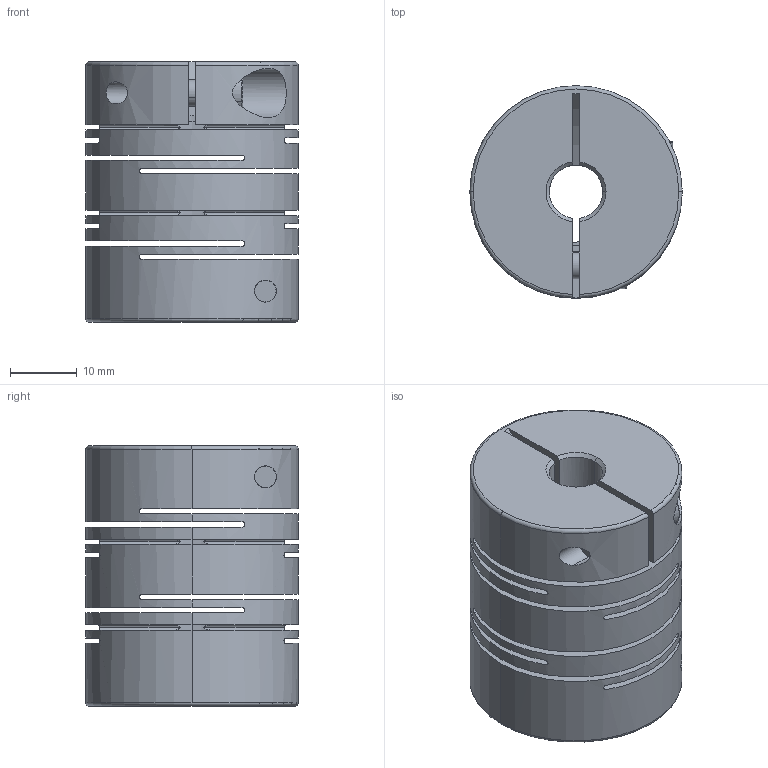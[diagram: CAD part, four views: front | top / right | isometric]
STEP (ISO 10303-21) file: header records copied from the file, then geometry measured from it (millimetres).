
FILE_DESCRIPTION (( 'STEP AP203' ), '1' );
FILE_NAME ('SRBA-32C.STEP', '2013-05-06T02:08:19', ( 'MYCOM' ), ( '' ), 'SwSTEP 2.0', 'SolidWorks 2012', '' );
FILE_SCHEMA (( 'CONFIG_CONTROL_DESIGN' ));
Length unit declared in the file: millimetre
Products named in the file (1): SRBA-32C
Bounding box: 31.8 x 31.8 x 39 mm (x, y, z)
Volume: 21132.3 mm3; surface area: 14582.2 mm2
Topology: 1 solids, 1 shells, 174 faces, 495 edges, 313 vertices
Faces by surface type: cylinder 81, plane 60, cone 17, torus 16
Entity records: 6403 total; most frequent: CARTESIAN_POINT 1788, ORIENTED_EDGE 982, DIRECTION 958, EDGE_CURVE 491, AXIS2_PLACEMENT_3D 379, VERTEX_POINT 313, CIRCLE 204, VECTOR 200
